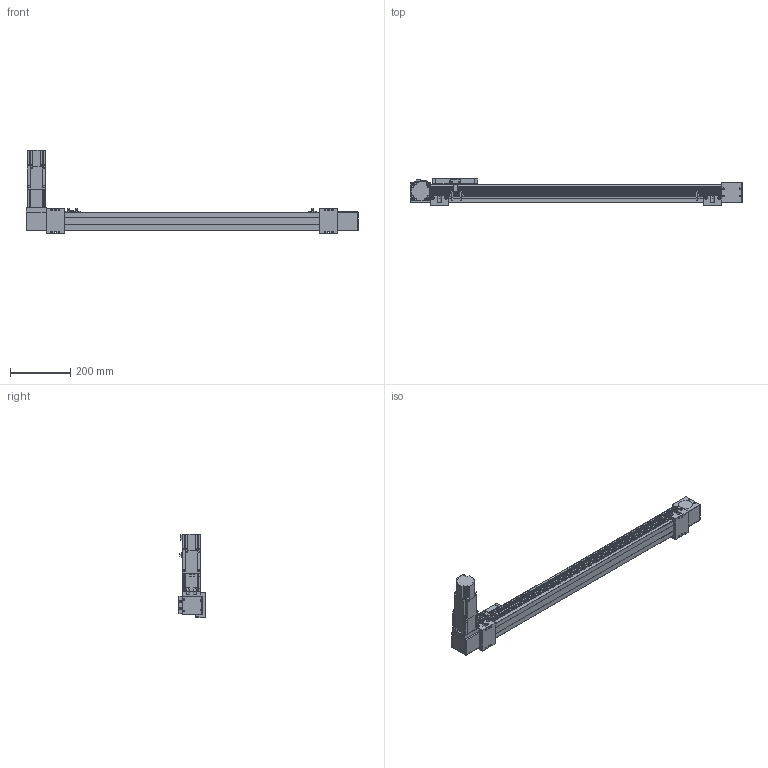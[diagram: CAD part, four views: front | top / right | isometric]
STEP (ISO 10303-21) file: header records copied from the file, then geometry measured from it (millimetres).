
FILE_DESCRIPTION(/* description */ ('STEP AP203'),/* implementation_level */ '2;1');
FILE_NAME(/* name */ 'SK60-P13-S800-BL-T40-C1-N(0)',/* time_stamp */ '2023-04-06T03:36:19+02:00',/* author */ ('License CC BY-ND 4.0'),/* organization */ ('CADENAS'),/* preprocessor_version */ 'ST-DEVELOPER v19.3',/* originating_system */ 'PARTsolutions',/* authorisation */ ' ');
FILE_SCHEMA (('CONFIG_CONTROL_DESIGN'));
Length unit declared in the file: millimetre
Products named in the file (11): SK60-P13-S800-BL-T40-C1-N(0); PSC140-sensor; SK60-S450_seat; SK60-S450-BL-C1_slider; SK60_body3; SK60_body6; SK60-BL_body2; T40-p1; SK60_body5; SK60_body4; SK60-S800-BL-C1_body
Assembly tree (17 placements, depth 2):
  SK60-P13-S800-BL-T40-C1-N(0)
    PSC140-sensor  x3
    SK60-S450_seat  x2
    SK60-S450-BL-C1_slider
    SK60_body3  x3
    SK60_body6  x2
    SK60-BL_body2  x2
    T40-p1
    SK60_body5
    SK60_body4
    SK60-S800-BL-C1_body
Bounding box: 1100 x 90 x 278.2 mm (x, y, z)
Volume: 4334124.7 mm3; surface area: 600162.7 mm2
Topology: 17 solids, 21 shells, 834 faces, 2109 edges, 1394 vertices
Faces by surface type: plane 544, cylinder 266, cone 22, torus 2
Full cylindrical faces by diameter (mm): 2.8 x3, 3.3 x4, 4.2 x8, 4.5 x26, 4.6 x3, 4.917 x16, 5 x2, 5.478 x4, 5.5 x19, 6.5 x4, 8 x4, 8.5 x4, 9.988 x4, 10 x8, 13.556 x1, 14 x1, 14.586 x1, 19.692 x1, 38.432 x2, 43 x1, 44 x3, 47 x2, 50 x2
Entity records: 19371 total; most frequent: DIRECTION 3292, CARTESIAN_POINT 3289, ORIENTED_EDGE 3050, EDGE_CURVE 1525, AXIS2_PLACEMENT_3D 1100, LINE 1092, VECTOR 1092, VERTEX_POINT 1077
